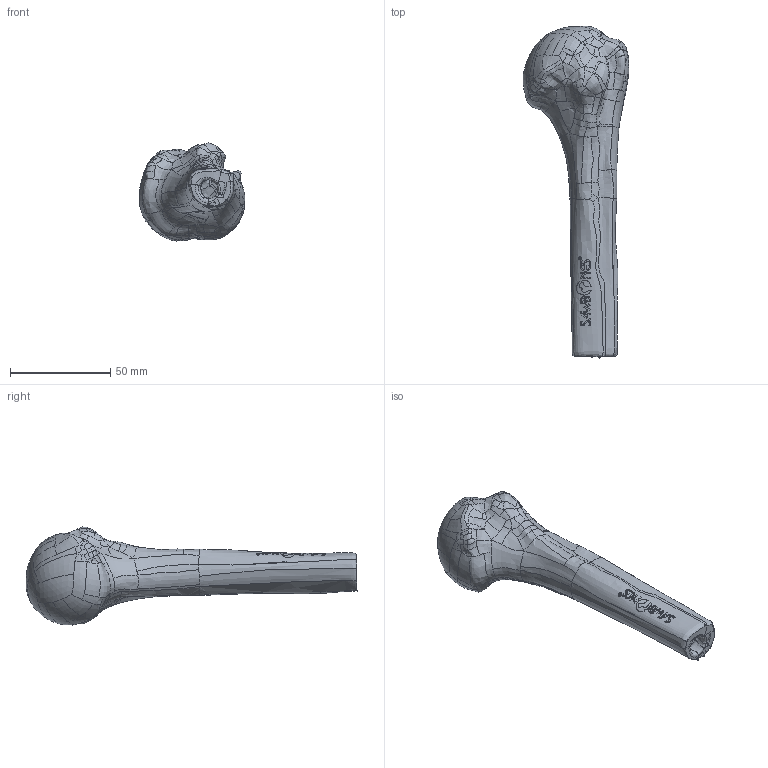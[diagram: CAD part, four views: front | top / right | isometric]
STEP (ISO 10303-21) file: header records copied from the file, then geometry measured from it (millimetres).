
FILE_DESCRIPTION (( 'STEP AP203' ), '1' );
FILE_NAME ('1051.STEP', '2025-05-15T21:05:16', ( '' ), ( '' ), 'SwSTEP 2.0', 'SolidWorks 2024', '' );
FILE_SCHEMA (( 'CONFIG_CONTROL_DESIGN' ));
Products named in the file (1): 1051
Bounding box: 52.86 x 165.8 x 48.94 mm (x, y, z)
Volume: 112133.3 mm3; surface area: 16935.8 mm2
Topology: 1 solids, 1 shells, 468 faces, 1218 edges, 766 vertices
Faces by surface type: bspline 422, plane 46
Entity records: 49137 total; most frequent: CARTESIAN_POINT 40993, ORIENTED_EDGE 2436, EDGE_CURVE 1218, B_SPLINE_CURVE_WITH_KNOTS 1026, VERTEX_POINT 766, EDGE_LOOP 482, ADVANCED_FACE 468, FACE_OUTER_BOUND 468
